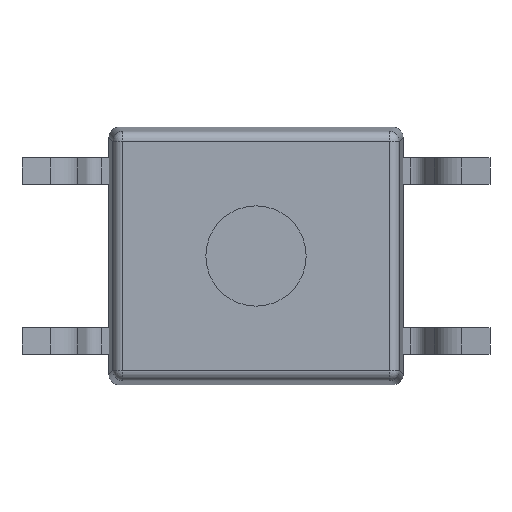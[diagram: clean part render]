
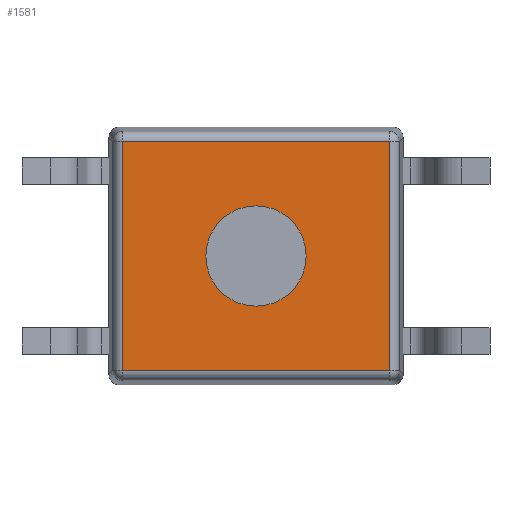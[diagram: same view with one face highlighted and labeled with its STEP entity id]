
A CAD part, front view. The second image highlights one B-rep face of the part: STEP entity #1581.
In plain terms, the highlighted planar face has unit normal (0, -1, 0).
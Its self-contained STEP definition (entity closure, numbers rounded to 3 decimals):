
#97=LINE('',#2461,#257);
#98=LINE('',#2463,#258);
#99=LINE('',#2465,#259);
#100=LINE('',#2466,#260);
#257=VECTOR('',#1922,3.98);
#258=VECTOR('',#1923,3.43);
#259=VECTOR('',#1924,3.98);
#260=VECTOR('',#1925,3.43);
#366=PLANE('',#1681);
#408=FACE_BOUND('',#514,.T.);
#420=FACE_OUTER_BOUND('',#513,.T.);
#513=EDGE_LOOP('',(#1114,#1115,#1116,#1117));
#514=EDGE_LOOP('',(#1118));
#594=CIRCLE('',#1664,0.75);
#654=VERTEX_POINT('',#2302);
#717=VERTEX_POINT('',#2459);
#718=VERTEX_POINT('',#2460);
#719=VERTEX_POINT('',#2462);
#720=VERTEX_POINT('',#2464);
#802=EDGE_CURVE('',#654,#654,#594,.T.);
#873=EDGE_CURVE('',#717,#718,#97,.T.);
#874=EDGE_CURVE('',#718,#719,#98,.T.);
#875=EDGE_CURVE('',#719,#720,#99,.T.);
#876=EDGE_CURVE('',#720,#717,#100,.T.);
#1114=ORIENTED_EDGE('',*,*,#873,.T.);
#1115=ORIENTED_EDGE('',*,*,#874,.T.);
#1116=ORIENTED_EDGE('',*,*,#875,.T.);
#1117=ORIENTED_EDGE('',*,*,#876,.T.);
#1118=ORIENTED_EDGE('',*,*,#802,.F.);
#1581=ADVANCED_FACE('',(#420,#408),#366,.T.);
#1664=AXIS2_PLACEMENT_3D('',#2303,#1826,#1827);
#1681=AXIS2_PLACEMENT_3D('',#2458,#1920,#1921);
#1826=DIRECTION('center_axis',(0.,-1.,0.));
#1827=DIRECTION('ref_axis',(0.,0.,-1.));
#1920=DIRECTION('center_axis',(0.,-1.,0.));
#1921=DIRECTION('ref_axis',(0.,0.,-1.));
#1922=DIRECTION('',(1.,0.,0.));
#1923=DIRECTION('',(0.,0.,1.));
#1924=DIRECTION('',(-1.,0.,0.));
#1925=DIRECTION('',(0.,0.,-1.));
#2302=CARTESIAN_POINT('',(0.,-1.,-0.75));
#2303=CARTESIAN_POINT('Origin',(0.,-1.,0.));
#2458=CARTESIAN_POINT('Origin',(0.,-1.,0.));
#2459=CARTESIAN_POINT('',(-1.99,-1.,-1.715));
#2460=CARTESIAN_POINT('',(1.99,-1.,-1.715));
#2461=CARTESIAN_POINT('',(1.98,-1.,-1.715));
#2462=CARTESIAN_POINT('',(1.99,-1.,1.715));
#2463=CARTESIAN_POINT('',(1.99,-1.,1.705));
#2464=CARTESIAN_POINT('',(-1.99,-1.,1.715));
#2465=CARTESIAN_POINT('',(-1.98,-1.,1.715));
#2466=CARTESIAN_POINT('',(-1.99,-1.,-1.705));
